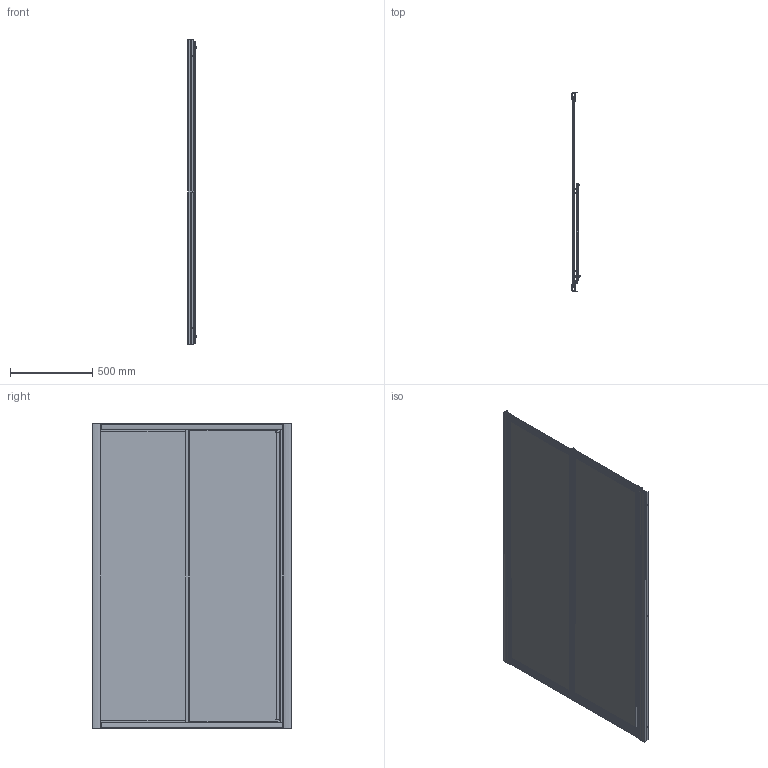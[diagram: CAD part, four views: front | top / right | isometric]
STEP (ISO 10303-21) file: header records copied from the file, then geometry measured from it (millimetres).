
FILE_DESCRIPTION(/* description */ ('INSERTO GIUNZIONE BINARIO'),/* implementation_level */ '2;1');
FILE_NAME(/* name */ 'C:\Users\benassi\Desktop\dwg 3D\America tre 2019\America 3 scorr2a 121-128.stp',/* time_stamp */ '2018-07-17T14:12:59+02:00',/* author */ ('benassi'),/* organization */ (''),/* preprocessor_version */ 'ST-DEVELOPER v16.1',/* originating_system */ 'Autodesk Inventor 2016',/* authorisation */ '');
FILE_SCHEMA (('AUTOMOTIVE_DESIGN { 1 0 10303 214 3 1 1 }'));
Products named in the file (30): 10000008458; 10000008457; 10000021312; 10000008462; 10000021147; 10000008466; 10000021307; 10000008467; 10000021146; 10000008468; 10000008472; 10000021311; ISO 7049 - ST3,5 x 16 - C - H; 10000021141; calamita_1783; 10000021306; 10000021309; 10000021308; 10000008460; VITE TC 2,9-38; 10000004703_IPT_000; 10000004703_IPT_000_1; 10000021106; 10000021304; 10000021313; 10000000633_IPT_000; 10000013432; 10000013433; 10000013434; 10000021305
Assembly tree (48 placements, depth 3):
  10000021305
    10000008458  x2
    10000008457  x2
    10000021312  x2
    10000008462
    10000021306
      10000021147
      10000008466
      10000021307  x2
      10000008467
      10000021146
      10000008468
      10000008472
      10000021311
      ISO 7049 - ST3,5 x 16 - C - H  x4
      10000021141  x4
      calamita_1783
    10000021309  x2
    10000021308
    10000008460  x2
    VITE TC 2,9-38  x4
    10000004703_IPT_000
    10000004703_IPT_000_1
    10000021106
    10000021304  x2
    10000021313
    10000000633_IPT_000
    10000013434  x4
      10000013432
      10000013433
Bounding box: 51.05 x 1209.39 x 1850 mm (x, y, z)
Volume: 8121958.6 mm3; surface area: 8181688.2 mm2
Topology: 49 solids, 49 shells, 2577 faces, 7085 edges, 4640 vertices
Faces by surface type: plane 1253, cylinder 980, cone 208, torus 84, bspline 36, sphere 16
Full cylindrical faces by diameter (mm): 2.9 x4, 3 x4, 3.1 x4, 3.242 x4, 3.4 x2, 3.5 x4, 3.9 x4, 4 x8, 4.2 x4, 5 x6, 6.3 x4, 7 x4, 7.3 x4, 7.6 x8, 8 x8, 9 x4, 16 x4
Entity records: 58027 total; most frequent: CARTESIAN_POINT 11994, DIRECTION 9700, ORIENTED_EDGE 9360, EDGE_CURVE 4680, AXIS2_PLACEMENT_3D 3450, VERTEX_POINT 3096, LINE 2800, VECTOR 2800
